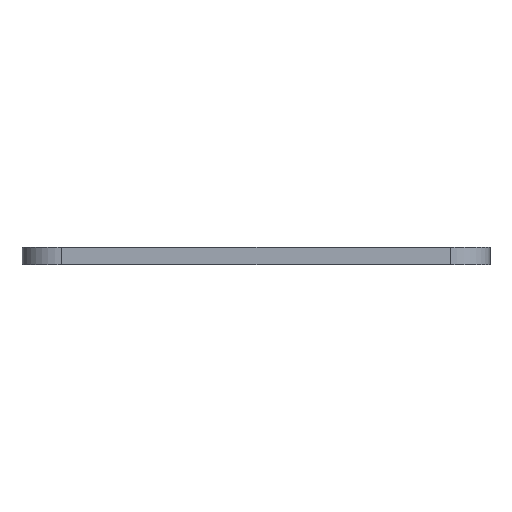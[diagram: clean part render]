
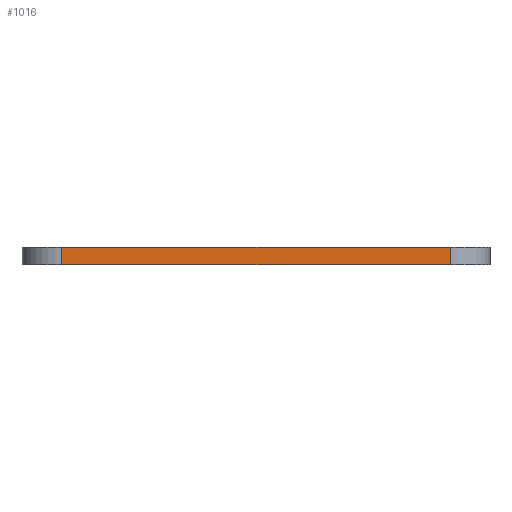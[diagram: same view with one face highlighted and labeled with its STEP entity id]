
A CAD part, left-side view. The second image highlights one B-rep face of the part: STEP entity #1016.
In plain terms, the highlighted planar face has unit normal (-1, 0, 0).
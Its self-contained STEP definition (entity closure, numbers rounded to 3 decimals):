
#44 = PLANE('',#45);
#45 = AXIS2_PLACEMENT_3D('',#46,#47,#48);
#46 = CARTESIAN_POINT('',(0.,0.,0.));
#47 = DIRECTION('',(0.,0.,1.));
#48 = DIRECTION('',(1.,0.,-0.));
#72 = CYLINDRICAL_SURFACE('',#73,6.);
#73 = AXIS2_PLACEMENT_3D('',#74,#75,#76);
#74 = CARTESIAN_POINT('',(-32.,-29.5,0.));
#75 = DIRECTION('',(0.,0.,1.));
#76 = DIRECTION('',(0.,-1.,0.));
#100 = PLANE('',#101);
#101 = AXIS2_PLACEMENT_3D('',#102,#103,#104);
#102 = CARTESIAN_POINT('',(0.,0.,2.7));
#103 = DIRECTION('',(0.,0.,1.));
#104 = DIRECTION('',(1.,0.,-0.));
#140 = VERTEX_POINT('',#141);
#141 = CARTESIAN_POINT('',(-38.,-29.5,0.));
#387 = VERTEX_POINT('',#388);
#388 = CARTESIAN_POINT('',(-38.,29.5,0.));
#403 = CYLINDRICAL_SURFACE('',#404,6.);
#404 = AXIS2_PLACEMENT_3D('',#405,#406,#407);
#405 = CARTESIAN_POINT('',(-32.,29.5,0.));
#406 = DIRECTION('',(0.,0.,1.));
#407 = DIRECTION('',(-0.,1.,0.));
#415 = EDGE_CURVE('',#387,#140,#416,.T.);
#416 = SURFACE_CURVE('',#417,(#421,#428),.PCURVE_S1.);
#417 = LINE('',#418,#419);
#418 = CARTESIAN_POINT('',(-38.,35.5,0.));
#419 = VECTOR('',#420,1.);
#420 = DIRECTION('',(0.,-1.,0.));
#421 = PCURVE('',#44,#422);
#422 = DEFINITIONAL_REPRESENTATION('',(#423),#427);
#423 = LINE('',#424,#425);
#424 = CARTESIAN_POINT('',(-38.,35.5));
#425 = VECTOR('',#426,1.);
#426 = DIRECTION('',(0.,-1.));
#427 = ( GEOMETRIC_REPRESENTATION_CONTEXT(2) 
PARAMETRIC_REPRESENTATION_CONTEXT() REPRESENTATION_CONTEXT('2D SPACE',''
  ) );
#428 = PCURVE('',#429,#434);
#429 = PLANE('',#430);
#430 = AXIS2_PLACEMENT_3D('',#431,#432,#433);
#431 = CARTESIAN_POINT('',(-38.,35.5,0.));
#432 = DIRECTION('',(1.,0.,-0.));
#433 = DIRECTION('',(0.,-1.,0.));
#434 = DEFINITIONAL_REPRESENTATION('',(#435),#439);
#435 = LINE('',#436,#437);
#436 = CARTESIAN_POINT('',(0.,0.));
#437 = VECTOR('',#438,1.);
#438 = DIRECTION('',(1.,0.));
#439 = ( GEOMETRIC_REPRESENTATION_CONTEXT(2) 
PARAMETRIC_REPRESENTATION_CONTEXT() REPRESENTATION_CONTEXT('2D SPACE',''
  ) );
#630 = VERTEX_POINT('',#631);
#631 = CARTESIAN_POINT('',(-38.,-29.5,2.7));
#826 = VERTEX_POINT('',#827);
#827 = CARTESIAN_POINT('',(-38.,29.5,2.7));
#849 = EDGE_CURVE('',#826,#630,#850,.T.);
#850 = SURFACE_CURVE('',#851,(#855,#862),.PCURVE_S1.);
#851 = LINE('',#852,#853);
#852 = CARTESIAN_POINT('',(-38.,35.5,2.7));
#853 = VECTOR('',#854,1.);
#854 = DIRECTION('',(0.,-1.,0.));
#855 = PCURVE('',#100,#856);
#856 = DEFINITIONAL_REPRESENTATION('',(#857),#861);
#857 = LINE('',#858,#859);
#858 = CARTESIAN_POINT('',(-38.,35.5));
#859 = VECTOR('',#860,1.);
#860 = DIRECTION('',(0.,-1.));
#861 = ( GEOMETRIC_REPRESENTATION_CONTEXT(2) 
PARAMETRIC_REPRESENTATION_CONTEXT() REPRESENTATION_CONTEXT('2D SPACE',''
  ) );
#862 = PCURVE('',#429,#863);
#863 = DEFINITIONAL_REPRESENTATION('',(#864),#868);
#864 = LINE('',#865,#866);
#865 = CARTESIAN_POINT('',(0.,-2.7));
#866 = VECTOR('',#867,1.);
#867 = DIRECTION('',(1.,0.));
#868 = ( GEOMETRIC_REPRESENTATION_CONTEXT(2) 
PARAMETRIC_REPRESENTATION_CONTEXT() REPRESENTATION_CONTEXT('2D SPACE',''
  ) );
#994 = EDGE_CURVE('',#140,#630,#995,.T.);
#995 = SURFACE_CURVE('',#996,(#1000,#1007),.PCURVE_S1.);
#996 = LINE('',#997,#998);
#997 = CARTESIAN_POINT('',(-38.,-29.5,0.));
#998 = VECTOR('',#999,1.);
#999 = DIRECTION('',(0.,0.,1.));
#1000 = PCURVE('',#72,#1001);
#1001 = DEFINITIONAL_REPRESENTATION('',(#1002),#1006);
#1002 = LINE('',#1003,#1004);
#1003 = CARTESIAN_POINT('',(-1.571,0.));
#1004 = VECTOR('',#1005,1.);
#1005 = DIRECTION('',(-0.,1.));
#1006 = ( GEOMETRIC_REPRESENTATION_CONTEXT(2) 
PARAMETRIC_REPRESENTATION_CONTEXT() REPRESENTATION_CONTEXT('2D SPACE',''
  ) );
#1007 = PCURVE('',#429,#1008);
#1008 = DEFINITIONAL_REPRESENTATION('',(#1009),#1013);
#1009 = LINE('',#1010,#1011);
#1010 = CARTESIAN_POINT('',(65.,0.));
#1011 = VECTOR('',#1012,1.);
#1012 = DIRECTION('',(0.,-1.));
#1013 = ( GEOMETRIC_REPRESENTATION_CONTEXT(2) 
PARAMETRIC_REPRESENTATION_CONTEXT() REPRESENTATION_CONTEXT('2D SPACE',''
  ) );
#1016 = ADVANCED_FACE('',(#1017),#429,.F.);
#1017 = FACE_BOUND('',#1018,.F.);
#1018 = EDGE_LOOP('',(#1019,#1020,#1041,#1042));
#1019 = ORIENTED_EDGE('',*,*,#415,.F.);
#1020 = ORIENTED_EDGE('',*,*,#1021,.T.);
#1021 = EDGE_CURVE('',#387,#826,#1022,.T.);
#1022 = SURFACE_CURVE('',#1023,(#1027,#1034),.PCURVE_S1.);
#1023 = LINE('',#1024,#1025);
#1024 = CARTESIAN_POINT('',(-38.,29.5,0.));
#1025 = VECTOR('',#1026,1.);
#1026 = DIRECTION('',(0.,0.,1.));
#1027 = PCURVE('',#429,#1028);
#1028 = DEFINITIONAL_REPRESENTATION('',(#1029),#1033);
#1029 = LINE('',#1030,#1031);
#1030 = CARTESIAN_POINT('',(6.,0.));
#1031 = VECTOR('',#1032,1.);
#1032 = DIRECTION('',(0.,-1.));
#1033 = ( GEOMETRIC_REPRESENTATION_CONTEXT(2) 
PARAMETRIC_REPRESENTATION_CONTEXT() REPRESENTATION_CONTEXT('2D SPACE',''
  ) );
#1034 = PCURVE('',#403,#1035);
#1035 = DEFINITIONAL_REPRESENTATION('',(#1036),#1040);
#1036 = LINE('',#1037,#1038);
#1037 = CARTESIAN_POINT('',(1.571,0.));
#1038 = VECTOR('',#1039,1.);
#1039 = DIRECTION('',(0.,1.));
#1040 = ( GEOMETRIC_REPRESENTATION_CONTEXT(2) 
PARAMETRIC_REPRESENTATION_CONTEXT() REPRESENTATION_CONTEXT('2D SPACE',''
  ) );
#1041 = ORIENTED_EDGE('',*,*,#849,.T.);
#1042 = ORIENTED_EDGE('',*,*,#994,.F.);
